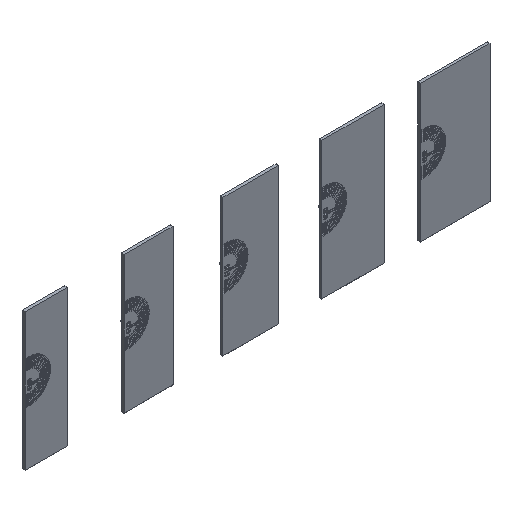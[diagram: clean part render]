
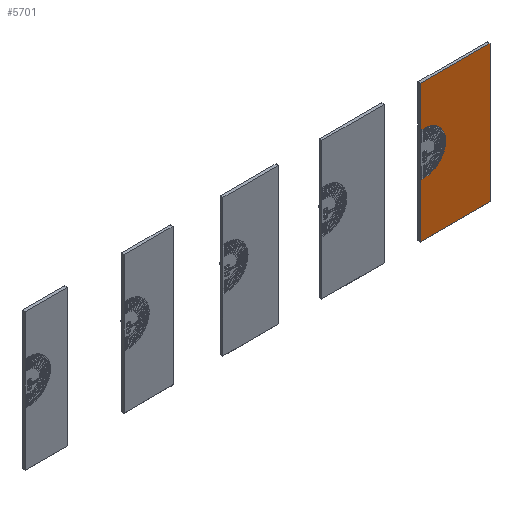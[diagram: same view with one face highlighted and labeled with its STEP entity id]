
A CAD part, isometric view. The second image highlights one B-rep face of the part: STEP entity #5701.
In plain terms, the highlighted planar face has unit normal (0, -1, 0).
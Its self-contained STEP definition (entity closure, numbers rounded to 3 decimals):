
#3463=FACE_OUTER_BOUND('',#11179,.T.);
#5701=ADVANCED_FACE('',(#3463),#7041,.F.);
#7041=PLANE('',#41068);
#9004=CIRCLE('',#41067,313.);
#11179=EDGE_LOOP('',(#19483,#19484,#19485,#19486,#19487,#19488,#19489,#19490));
#19483=ORIENTED_EDGE('',*,*,#30385,.T.);
#19484=ORIENTED_EDGE('',*,*,#30386,.T.);
#19485=ORIENTED_EDGE('',*,*,#30252,.T.);
#19486=ORIENTED_EDGE('',*,*,#30387,.T.);
#19487=ORIENTED_EDGE('',*,*,#30388,.F.);
#19488=ORIENTED_EDGE('',*,*,#30389,.F.);
#19489=ORIENTED_EDGE('',*,*,#30134,.T.);
#19490=ORIENTED_EDGE('',*,*,#30390,.F.);
#25402=VERTEX_POINT('',#63529);
#25403=VERTEX_POINT('',#63531);
#25520=VERTEX_POINT('',#63765);
#25521=VERTEX_POINT('',#63767);
#25625=VERTEX_POINT('',#64020);
#25626=VERTEX_POINT('',#64021);
#25627=VERTEX_POINT('',#64024);
#25628=VERTEX_POINT('',#64026);
#30134=EDGE_CURVE('',#25403,#25402,#34038,.T.);
#30252=EDGE_CURVE('',#25521,#25520,#34100,.T.);
#30385=EDGE_CURVE('',#25625,#25626,#9004,.T.);
#30386=EDGE_CURVE('',#25626,#25521,#34182,.T.);
#30387=EDGE_CURVE('',#25520,#25627,#34183,.T.);
#30388=EDGE_CURVE('',#25628,#25627,#34184,.T.);
#30389=EDGE_CURVE('',#25403,#25628,#34185,.T.);
#30390=EDGE_CURVE('',#25625,#25402,#34186,.T.);
#34038=LINE('',#63530,#37008);
#34100=LINE('',#63766,#37070);
#34182=LINE('',#64022,#37152);
#34183=LINE('',#64023,#37153);
#34184=LINE('',#64025,#37154);
#34185=LINE('',#64027,#37155);
#34186=LINE('',#64028,#37156);
#37008=VECTOR('',#50205,1.);
#37070=VECTOR('',#50379,1.);
#37152=VECTOR('',#50597,1.);
#37153=VECTOR('',#50598,1.);
#37154=VECTOR('',#50599,1.);
#37155=VECTOR('',#50600,1.);
#37156=VECTOR('',#50601,1.);
#41067=AXIS2_PLACEMENT_3D('',#64019,#50595,#50596);
#41068=AXIS2_PLACEMENT_3D('',#64029,#50602,#50603);
#50205=DIRECTION('',(0.,0.,-1.));
#50379=DIRECTION('',(0.,0.,-1.));
#50595=DIRECTION('',(0.,1.,0.));
#50596=DIRECTION('',(0.,0.,1.));
#50597=DIRECTION('',(-1.,0.,0.));
#50598=DIRECTION('',(1.,0.,0.));
#50599=DIRECTION('',(0.,0.,-1.));
#50600=DIRECTION('',(1.,0.,0.));
#50601=DIRECTION('',(-1.,0.,0.));
#50602=DIRECTION('',(0.,1.,0.));
#50603=DIRECTION('',(0.,0.,1.));
#63529=CARTESIAN_POINT('',(5491.,-39.3,1417.));
#63530=CARTESIAN_POINT('',(5491.,-39.3,2017.));
#63531=CARTESIAN_POINT('',(5491.,-39.3,2017.));
#63765=CARTESIAN_POINT('',(5491.,-39.3,2.));
#63766=CARTESIAN_POINT('',(5491.,-39.3,2017.));
#63767=CARTESIAN_POINT('',(5491.,-39.3,791.));
#64019=CARTESIAN_POINT('',(5546.,-39.3,1104.));
#64020=CARTESIAN_POINT('',(5546.,-39.3,1417.));
#64021=CARTESIAN_POINT('',(5546.,-39.3,791.));
#64022=CARTESIAN_POINT('',(5546.,-39.3,791.));
#64023=CARTESIAN_POINT('',(5691.,-39.3,2.));
#64024=CARTESIAN_POINT('',(6509.,-39.3,2.));
#64025=CARTESIAN_POINT('',(6509.,-39.3,2017.));
#64026=CARTESIAN_POINT('',(6509.,-39.3,2017.));
#64027=CARTESIAN_POINT('',(5691.,-39.3,2017.));
#64028=CARTESIAN_POINT('',(5546.,-39.3,1417.));
#64029=CARTESIAN_POINT('',(5691.,-39.3,2017.));
